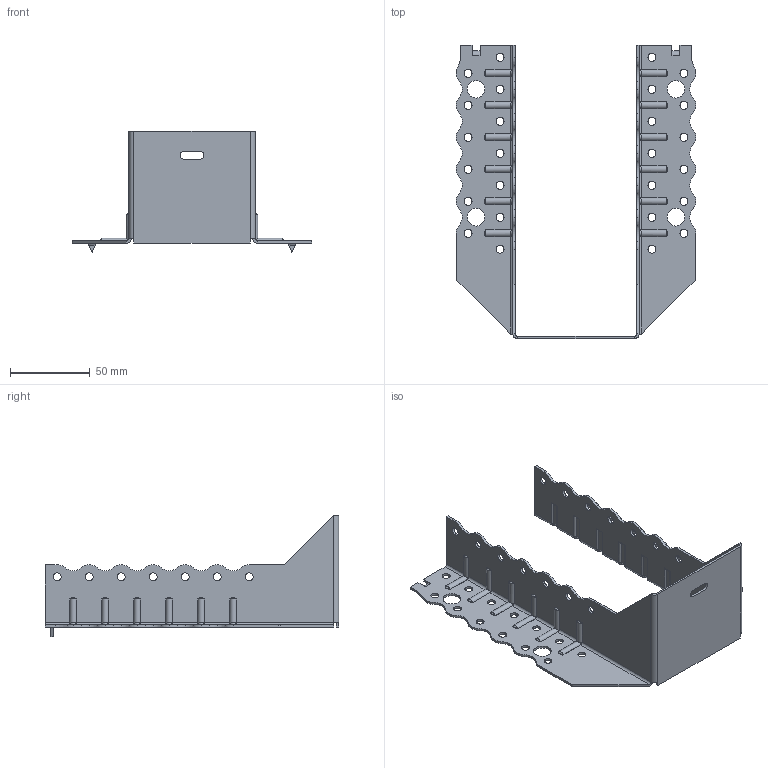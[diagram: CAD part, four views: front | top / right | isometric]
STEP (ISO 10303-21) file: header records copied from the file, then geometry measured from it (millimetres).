
FILE_DESCRIPTION (( 'STEP AP203' ), '1' );
FILE_NAME ('30626TOP.STEP', '2021-04-07T13:31:38', ( '' ), ( '' ), 'SwSTEP 2.0', 'SolidWorks 2013', '' );
FILE_SCHEMA (( 'CONFIG_CONTROL_DESIGN' ));
Length unit declared in the file: millimetre
Products named in the file (1): 30626TOP
Bounding box: 150 x 183.5 x 76 mm (x, y, z)
Volume: 44816.1 mm3; surface area: 63679.7 mm2
Topology: 1 solids, 1 shells, 498 faces, 1348 edges, 852 vertices
Faces by surface type: cylinder 317, plane 133, torus 24, bspline 24
Entity records: 18595 total; most frequent: CARTESIAN_POINT 5929, ORIENTED_EDGE 2696, DIRECTION 2596, EDGE_CURVE 1348, AXIS2_PLACEMENT_3D 949, VERTEX_POINT 852, LINE 698, VECTOR 698
